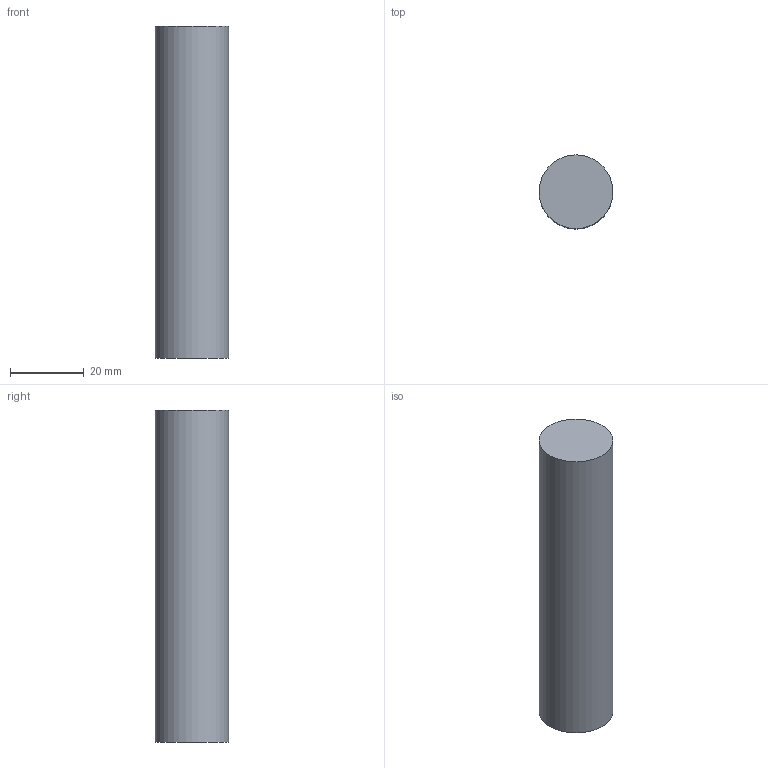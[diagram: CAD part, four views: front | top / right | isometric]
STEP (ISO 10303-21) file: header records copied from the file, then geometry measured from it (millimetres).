
FILE_DESCRIPTION(('Open CASCADE Model'),'2;1');
FILE_NAME('Open CASCADE Shape Model','2026-10-15T15:10:05',('Author'),( 'Open CASCADE'),'Open CASCADE STEP processor 8.0','Open CASCADE 8.0' ,'Unknown');
FILE_SCHEMA(('AUTOMOTIVE_DESIGN { 1 0 10303 214 1 1 1 1 }'));
Length unit declared in the file: millimetre
Products named in the file (1): TC14_PERNO_M20_L90_8p8_REF 152
Bounding box: 20 x 20 x 90 mm (x, y, z)
Volume: 28274.3 mm3; surface area: 6283.2 mm2
Topology: 1 solids, 1 shells, 3 faces, 3 edges, 2 vertices
Faces by surface type: plane 2, cylinder 1
Full cylindrical faces by diameter (mm): 20 x1
Entity records: 108 total; most frequent: DIRECTION 19, CARTESIAN_POINT 15, AXIS2_PLACEMENT_3D 6, ORIENTED_EDGE 6, PCURVE 6, DEFINITIONAL_REPRESENTATION 6, LINE 5, VECTOR 5
